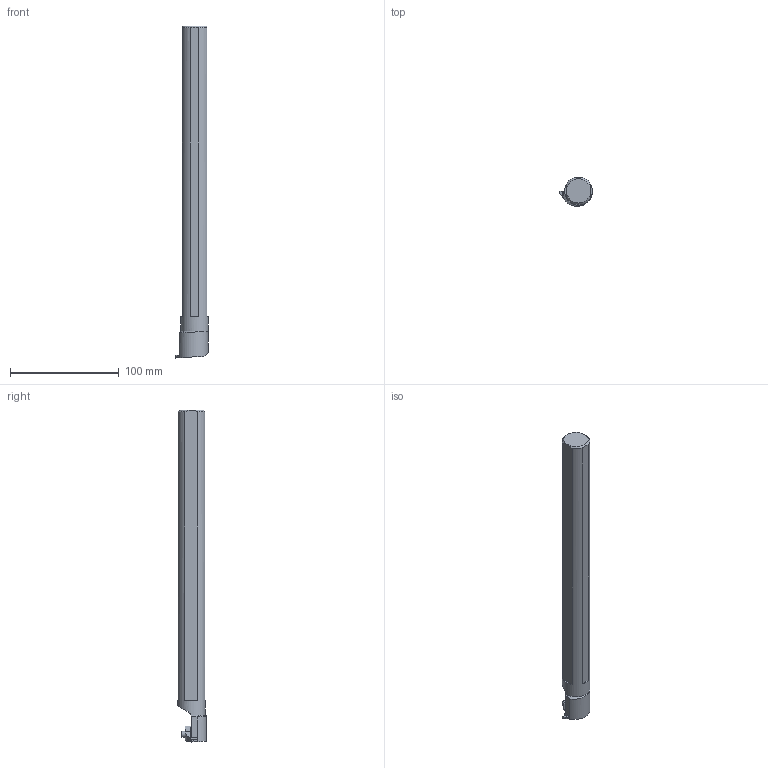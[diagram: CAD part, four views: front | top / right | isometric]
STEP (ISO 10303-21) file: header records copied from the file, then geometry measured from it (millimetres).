
FILE_DESCRIPTION(/* description */ (''),/* implementation_level */ '2;1');
FILE_NAME(/* name */ 'A16NER2_GTM.stp',/* time_stamp */ '2018-08-12T09:33:23-04:00',/* author */ ('Virtual Machining Team'),/* organization */ ('Kennametal, Inc.'),/* preprocessor_version */ 'ST-DEVELOPER v15',/* originating_system */ 'SIEMENS PLM Software NX 9.0',/* authorisation */ '');
FILE_SCHEMA (('AUTOMOTIVE_DESIGN { 1 0 10303 214 3 1 1 1 }'));
Length unit declared in the file: millimetre
Products named in the file (1): A16NER2_GTM
Bounding box: 30.18 x 26.49 x 304.8 mm (x, y, z)
Volume: 139908.4 mm3; surface area: 25561.1 mm2
Topology: 4 solids, 5 shells, 96 faces, 251 edges, 167 vertices
Faces by surface type: plane 64, cylinder 21, cone 7, bspline 4
Full cylindrical faces by diameter (mm): 3.505 x1, 3.581 x1, 5.74 x1, 25.4 x1
Entity records: 3134 total; most frequent: CARTESIAN_POINT 731, ORIENTED_EDGE 482, DIRECTION 467, EDGE_CURVE 241, VERTEX_POINT 163, AXIS2_PLACEMENT_3D 156, LINE 155, VECTOR 155
